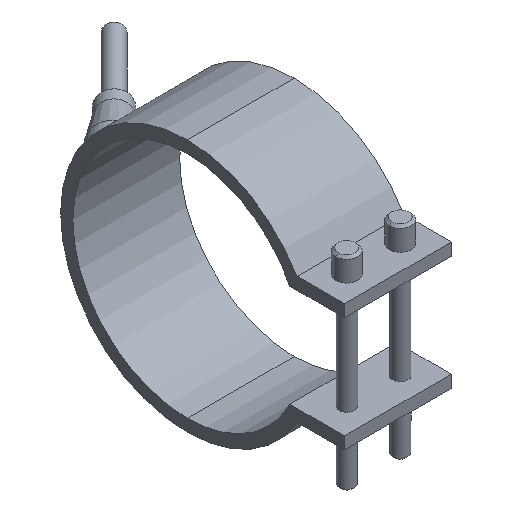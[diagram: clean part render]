
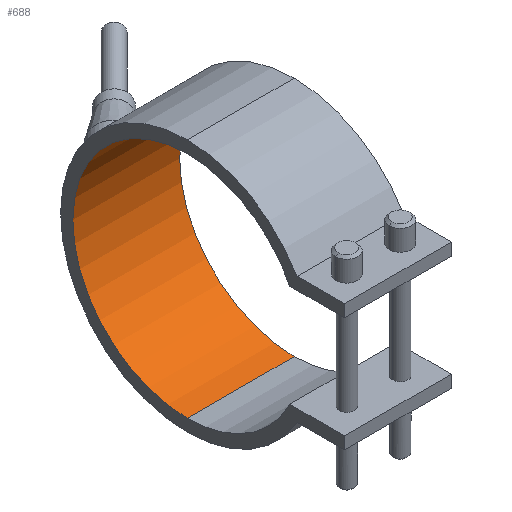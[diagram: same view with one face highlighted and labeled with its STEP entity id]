
A CAD part, isometric view. The second image highlights one B-rep face of the part: STEP entity #688.
In plain terms, the highlighted cylindrical face has radius 37.5 mm (diameter 75 mm), a partial arc.
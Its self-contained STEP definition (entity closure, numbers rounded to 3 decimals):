
#358=CARTESIAN_POINT('Vertex',(17.5,0.,37.5)) ;
#363=CARTESIAN_POINT('Axis2P3D Location',(17.5,0.,0.)) ;
#367=CARTESIAN_POINT('Vertex',(17.5,0.,-37.5)) ;
#474=CARTESIAN_POINT('Vertex',(-17.5,0.,-37.5)) ;
#477=CARTESIAN_POINT('Axis2P3D Location',(-17.5,0.,0.)) ;
#481=CARTESIAN_POINT('Vertex',(-17.5,0.,37.5)) ;
#660=CARTESIAN_POINT('Line Origine',(17.5,0.,37.5)) ;
#672=CARTESIAN_POINT('Axis2P3D Location',(17.5,0.,0.)) ;
#677=CARTESIAN_POINT('Line Origine',(17.5,0.,-37.5)) ;
#364=DIRECTION('Axis2P3D Direction',(1.,0.,0.)) ;
#478=DIRECTION('Axis2P3D Direction',(1.,0.,0.)) ;
#661=DIRECTION('Vector Direction',(1.,0.,0.)) ;
#673=DIRECTION('Axis2P3D Direction',(1.,0.,-0.)) ;
#674=DIRECTION('Axis2P3D XDirection',(0.,0.,-1.)) ;
#678=DIRECTION('Vector Direction',(1.,0.,0.)) ;
#365=AXIS2_PLACEMENT_3D('Circle Axis2P3D',#363,#364,$) ;
#479=AXIS2_PLACEMENT_3D('Circle Axis2P3D',#477,#478,$) ;
#675=AXIS2_PLACEMENT_3D('Cylinder Axis2P3D',#672,#673,#674) ;
#683=ORIENTED_EDGE('',*,*,#369,.T.) ;
#684=ORIENTED_EDGE('',*,*,#664,.T.) ;
#685=ORIENTED_EDGE('',*,*,#483,.F.) ;
#686=ORIENTED_EDGE('',*,*,#681,.T.) ;
#662=VECTOR('Line Direction',#661,1.) ;
#679=VECTOR('Line Direction',#678,1.) ;
#688=ADVANCED_FACE('29075035',(#687),#676,.F.) ;
#366=CIRCLE('generated circle',#365,37.5) ;
#480=CIRCLE('generated circle',#479,37.5) ;
#676=CYLINDRICAL_SURFACE('generated cylinder',#675,37.5) ;
#369=EDGE_CURVE('',#368,#359,#366,.T.) ;
#483=EDGE_CURVE('',#475,#482,#480,.T.) ;
#664=EDGE_CURVE('',#359,#482,#663,.F.) ;
#681=EDGE_CURVE('',#475,#368,#680,.T.) ;
#682=EDGE_LOOP('',(#683,#684,#685,#686)) ;
#687=FACE_OUTER_BOUND('',#682,.T.) ;
#663=LINE('Line',#660,#662) ;
#680=LINE('Line',#677,#679) ;
#359=VERTEX_POINT('',#358) ;
#368=VERTEX_POINT('',#367) ;
#475=VERTEX_POINT('',#474) ;
#482=VERTEX_POINT('',#481) ;
